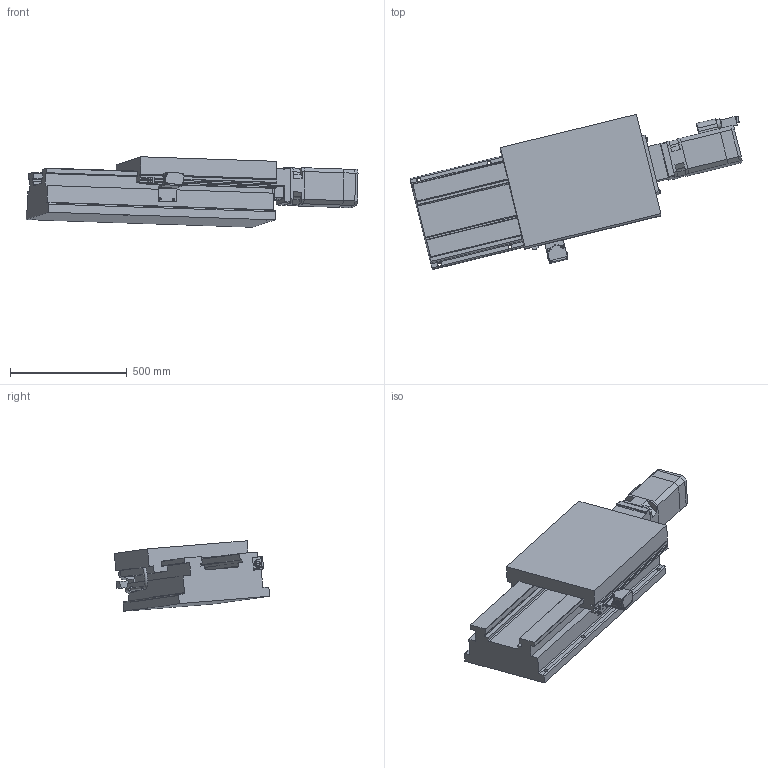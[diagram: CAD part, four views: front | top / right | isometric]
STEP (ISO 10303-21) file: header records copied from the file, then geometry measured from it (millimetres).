
FILE_DESCRIPTION((''),'2;1');
FILE_NAME('C:\VaultWork\Zeichnungen\Maßblätter\H400\H00212-0 Maßblatt H400 mechanisch 400 Hub.stp','2009-05-05T11:45:50',('Test'),(''),'Autodesk Inventor 2008','Autodesk Inventor 2008','');
FILE_SCHEMA(('AUTOMOTIVE_DESIGN { 1 0 10303 214 1 1 1 1 }'));
Length unit declared in the file: millimetre
Products named in the file (1): H00212-0 Maßblatt H400 mechanisch 400 Hub
Bounding box: 1421.67 x 665.06 x 301.77 mm (x, y, z)
Volume: 82998257.6 mm3; surface area: 2600250.2 mm2
Topology: 1 solids, 5 shells, 682 faces, 1849 edges, 1205 vertices
Faces by surface type: plane 454, cylinder 113, bspline 76, cone 21, torus 16, sphere 2
Full cylindrical faces by diameter (mm): 3.8 x2, 4 x2, 4.917 x2, 5.9 x2, 6 x4, 6.6 x2, 9.98 x2, 10 x5, 11 x4, 13 x6, 20 x2, 22 x1, 24 x1, 25 x1, 32 x1, 35 x1, 40 x1, 42.3 x1, 118 x1
Entity records: 22918 total; most frequent: CARTESIAN_POINT 5983, ORIENTED_EDGE 3462, DIRECTION 3049, EDGE_CURVE 1731, VECTOR 1223, LINE 1223, VERTEX_POINT 1167, AXIS2_PLACEMENT_3D 913
